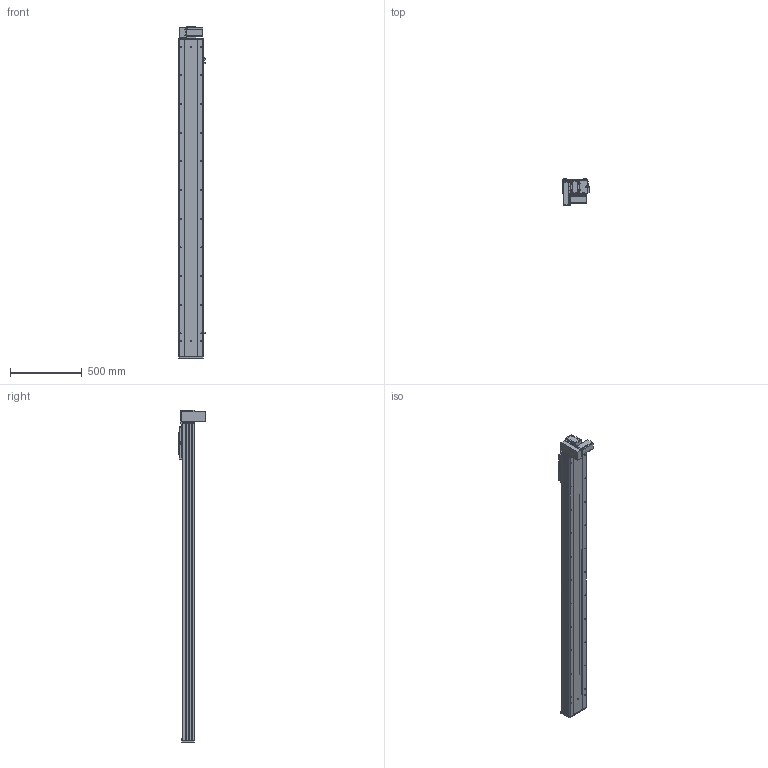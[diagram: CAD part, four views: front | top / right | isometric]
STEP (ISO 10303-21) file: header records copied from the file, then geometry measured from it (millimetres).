
FILE_DESCRIPTION (( 'STEP AP203' ), '1' );
FILE_NAME ('Y170CB-D105-S1900-BR-P400W.STEP', '2020-02-20T07:15:29', ( '微软用户' ), ( '微软中国' ), 'SwSTEP 2.0', 'SolidWorks 2017', '' );
FILE_SCHEMA (( 'CONFIG_CONTROL_DESIGN' ));
Length unit declared in the file: millimetre
Products named in the file (18): 00B-俋欶BM--163; 70CB--耜裔; 70B喘謫眊----; 70C-雄赽釱-奻-; B-源倛裔啣; Y170CB-D105-S1900-BR-P400W; 0C--雄赽釱俋欶-170; 0B-萇儂楊擘啣; 70CB-詩湍--; san松下电机400不带刹车----; Y100-135俋离換覜ん--; 70CB-掛极-; Y170CB-陔俋离換覜結え---; --70CB --喘謫眊楊擘啣-; Y1埴倛裔; 70CB-耜裔啣-; 17B-耜蚾蟀諉啣----; 70C--詩湍揤踡え-
Assembly tree (21 placements, depth 2):
  Y170CB-D105-S1900-BR-P400W
    B-源倛裔啣
    0B-萇儂楊擘啣
    san松下电机400不带刹车----
    70CB-掛极-
    --70CB --喘謫眊楊擘啣-
    70CB-耜裔啣-  x2
    70C--詩湍揤踡え-  x2
    70CB--耜裔
    70C-雄赽釱-奻-
    0C--雄赽釱俋欶-170
    70CB-詩湍--
    Y100-135俋离換覜ん--  x3
    Y170CB-陔俋离換覜結え---
    Y1埴倛裔
    17B-耜蚾蟀諉啣----
    00B-俋欶BM--163
    70B喘謫眊----
Bounding box: 183.5 x 184 x 2316 mm (x, y, z)
Volume: 10082518.5 mm3; surface area: 3634264.2 mm2
Topology: 21 solids, 21 shells, 1047 faces, 2813 edges, 1866 vertices
Faces by surface type: cylinder 561, plane 462, cone 24
Entity records: 33496 total; most frequent: CARTESIAN_POINT 6156, DIRECTION 5450, ORIENTED_EDGE 5108, EDGE_CURVE 2554, AXIS2_PLACEMENT_3D 2008, VERTEX_POINT 1696, LINE 1434, VECTOR 1434
